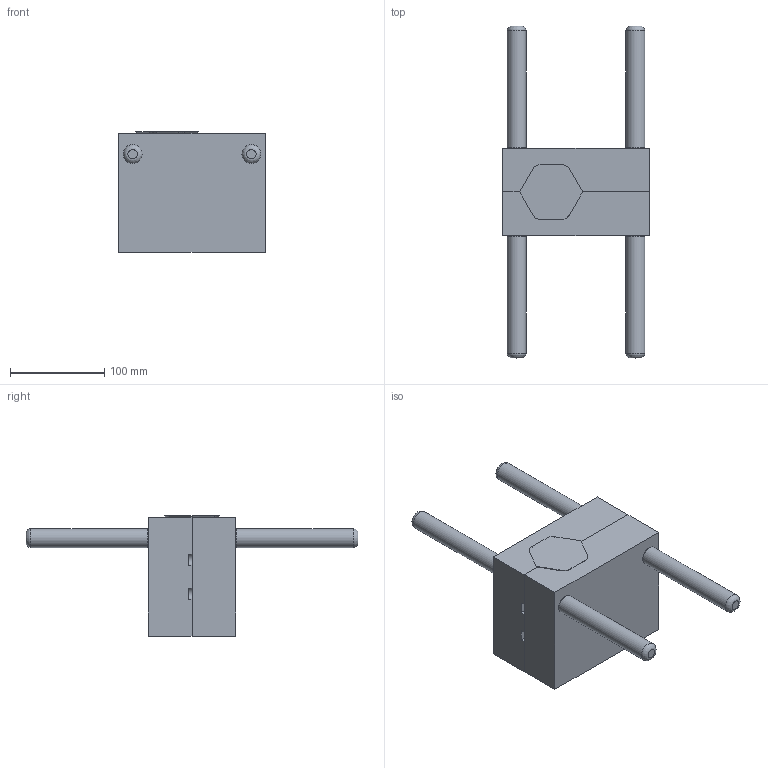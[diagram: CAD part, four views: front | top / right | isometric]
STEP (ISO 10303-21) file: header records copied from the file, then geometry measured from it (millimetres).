
FILE_DESCRIPTION(/* description */ (''),/* implementation_level */ '2;1');
FILE_NAME(/* name */ 'SLIDER MOULE_.step',/* time_stamp */ '2023-08-18T08:36:04+02:00',/* author */ (''),/* organization */ (''),/* preprocessor_version */ 'ST-DEVELOPER v20',/* originating_system */ 'Autodesk Translation Framework v12.9.0.99',/* authorisation */ '');
FILE_SCHEMA (('AUTOMOTIVE_DESIGN { 1 0 10303 214 3 1 1 }'));
Length unit declared in the file: millimetre
Products named in the file (15): SLIDER MOULE; Slider; APRES USINAGE; POUR FONDERIE; NOYAU; NOYAU HAUT; NOYAU BAS; E_1200_8x25_1 v1; E_1301_8x16_1 (1) v1; MOULE; MOULE GAUCHE; MOULE DROITE; POIGNEES; POIGNEE DE GUIDAGE; POIGNEE SIMPLE
Assembly tree (17 placements, depth 3):
  SLIDER MOULE
    Slider
      APRES USINAGE
      POUR FONDERIE
    NOYAU
      NOYAU HAUT
      NOYAU BAS
      E_1301_8x16_1 (1) v1  x2
      E_1200_8x25_1 v1
    MOULE
      MOULE GAUCHE
      MOULE DROITE
    POIGNEES
      POIGNEE DE GUIDAGE  x2
      POIGNEE SIMPLE  x2
Bounding box: 156.05 x 352.45 x 127.7 mm (x, y, z)
Volume: 2020981.2 mm3; surface area: 244985.1 mm2
Topology: 13 solids, 13 shells, 593 faces, 1515 edges, 931 vertices
Faces by surface type: plane 178, bspline 171, cylinder 156, cone 49, torus 23, sphere 16
Full cylindrical faces by diameter (mm): 6.779 x1, 8 x7, 9 x1, 9.7 x2, 10 x10, 10.274 x4, 11.834 x4, 13 x1, 15 x1, 18.4 x1, 20 x4, 31.7 x1
Entity records: 24247 total; most frequent: CARTESIAN_POINT 11298, ORIENTED_EDGE 2826, DIRECTION 2379, EDGE_CURVE 1413, AXIS2_PLACEMENT_3D 939, VERTEX_POINT 877, EDGE_LOOP 578, FACE_OUTER_BOUND 555
